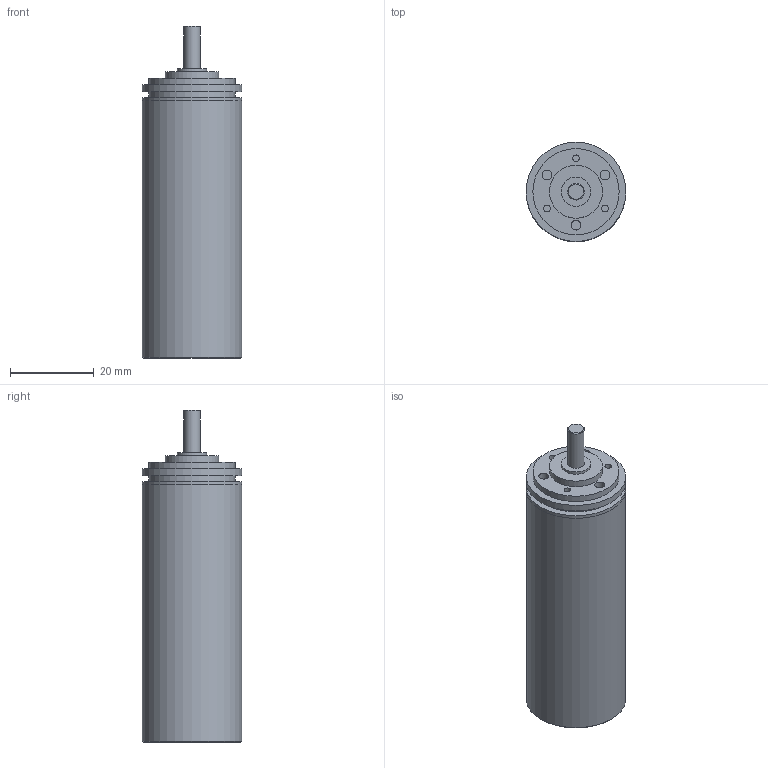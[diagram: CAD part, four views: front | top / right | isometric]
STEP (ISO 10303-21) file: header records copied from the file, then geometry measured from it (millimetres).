
FILE_DESCRIPTION(/* description */ (''),/* implementation_level */ '2;1');
FILE_NAME(/* name */ '22-2_10.stp',/* time_stamp */ '2016-08-26T11:19:35+02:00',/* author */ ('DR. FRITZ FAULHABER GmbH & Co. KG'),/* organization */ ('DR. FRITZ FAULHABER GmbH & Co. KG'),/* preprocessor_version */ 'ST-DEVELOPER v16',/* originating_system */ 'SIEMENS PLM Software NX 10.0',/* authorisation */ '');
FILE_SCHEMA (('AUTOMOTIVE_DESIGN { 1 0 10303 214 3 1 1 1 }'));
Length unit declared in the file: millimetre
Products named in the file (1): H00000860_A
Bounding box: 23.8 x 23.8 x 79.4 mm (x, y, z)
Volume: 21863.1 mm3; surface area: 7963.2 mm2
Topology: 1 solids, 1 shells, 42 faces, 65 edges, 43 vertices
Faces by surface type: plane 20, cylinder 19, cone 3
Full cylindrical faces by diameter (mm): 1.6 x3, 2.329 x3, 3.5 x1, 4 x1, 4.5 x1, 7 x2, 12.7 x1, 20.63 x2, 22 x1, 23.79 x1, 23.8 x3
Entity records: 858 total; most frequent: DIRECTION 168, CARTESIAN_POINT 125, AXIS2_PLACEMENT_3D 84, EDGE_LOOP 82, ORIENTED_EDGE 82, FACE_BOUND 74, ADVANCED_FACE 42, VERTEX_POINT 41
